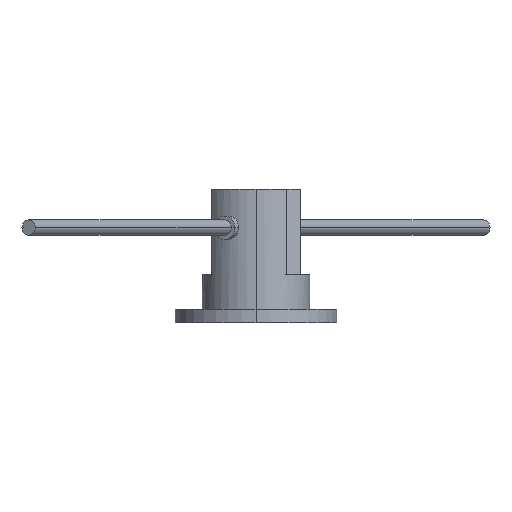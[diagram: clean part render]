
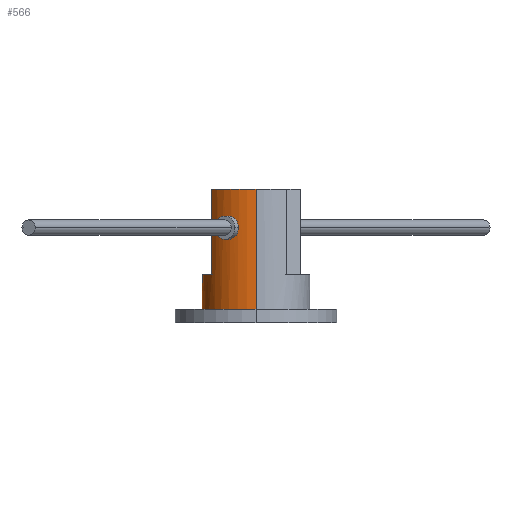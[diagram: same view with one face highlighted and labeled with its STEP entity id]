
A CAD part, front view. The second image highlights one B-rep face of the part: STEP entity #566.
In plain terms, the highlighted cylindrical face has radius 14 mm (diameter 28 mm), a partial arc.
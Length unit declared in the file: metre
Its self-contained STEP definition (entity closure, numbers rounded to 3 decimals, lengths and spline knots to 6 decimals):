
#6 = VERTEX_POINT ( 'NONE', #284 ) ;
#28 = DIRECTION ( 'NONE',  ( 0., 0., -1. ) ) ;
#33 = ORIENTED_EDGE ( 'NONE', *, *, #1291, .F. ) ;
#79 = DIRECTION ( 'NONE',  ( 0., 1., 0. ) ) ;
#84 = CARTESIAN_POINT ( 'NONE',  ( 0., 0., 0.0347 ) ) ;
#99 = VECTOR ( 'NONE', #28, 1. ) ;
#118 = DIRECTION ( 'NONE',  ( 0., 0., -1. ) ) ;
#186 = LINE ( 'NONE', #406, #99 ) ;
#204 = VECTOR ( 'NONE', #118, 1. ) ;
#252 = FACE_OUTER_BOUND ( 'NONE', #891, .T. ) ;
#274 = AXIS2_PLACEMENT_3D ( 'NONE', #833, #591, #1179 ) ;
#284 = CARTESIAN_POINT ( 'NONE',  ( -0.008009, 0.011483, 0.0125 ) ) ;
#296 = DIRECTION ( 'NONE',  ( 0., 1., 0. ) ) ;
#356 = CARTESIAN_POINT ( 'NONE',  ( 0., 0.014, 0.0035 ) ) ;
#372 = CARTESIAN_POINT ( 'NONE',  ( 0., 0., 0.0035 ) ) ;
#390 = DIRECTION ( 'NONE',  ( 0., 0., -1. ) ) ;
#406 = CARTESIAN_POINT ( 'NONE',  ( 0., 0.014, 0.0347 ) ) ;
#498 = EDGE_CURVE ( 'NONE', #6, #1274, #934, .T. ) ;
#502 = VERTEX_POINT ( 'NONE', #356 ) ;
#505 = CIRCLE ( 'NONE', #1504, 0.014 ) ;
#507 = CARTESIAN_POINT ( 'NONE',  ( -0.008009, 0.011483, 0.0191 ) ) ;
#541 = ORIENTED_EDGE ( 'NONE', *, *, #968, .F. ) ;
#566 = ADVANCED_FACE ( 'NONE', ( #252 ), #1480, .T. ) ;
#577 = EDGE_CURVE ( 'NONE', #1274, #798, #1078, .T. ) ;
#588 = AXIS2_PLACEMENT_3D ( 'NONE', #372, #902, #296 ) ;
#591 = DIRECTION ( 'NONE',  ( 0., 0., 1. ) ) ;
#642 = ORIENTED_EDGE ( 'NONE', *, *, #1458, .T. ) ;
#683 = LINE ( 'NONE', #507, #1020 ) ;
#704 = DIRECTION ( 'NONE',  ( 0., 0., 1. ) ) ;
#717 = DIRECTION ( 'NONE',  ( 0., 0., -1. ) ) ;
#728 = ORIENTED_EDGE ( 'NONE', *, *, #1506, .F. ) ;
#762 = VECTOR ( 'NONE', #704, 1. ) ;
#770 = AXIS2_PLACEMENT_3D ( 'NONE', #84, #1263, #1047 ) ;
#790 = EDGE_CURVE ( 'NONE', #1052, #1151, #1113, .T. ) ;
#798 = VERTEX_POINT ( 'NONE', #1285 ) ;
#799 = CIRCLE ( 'NONE', #588, 0.014 ) ;
#813 = AXIS2_PLACEMENT_3D ( 'NONE', #1199, #717, #948 ) ;
#833 = CARTESIAN_POINT ( 'NONE',  ( 0., 0., 0.0125 ) ) ;
#864 = CARTESIAN_POINT ( 'NONE',  ( 0., -0.014, 0.0347 ) ) ;
#891 = EDGE_LOOP ( 'NONE', ( #33, #989, #1371, #1280, #728, #1250, #642, #541 ) ) ;
#902 = DIRECTION ( 'NONE',  ( 0., 0., -1. ) ) ;
#934 = CIRCLE ( 'NONE', #274, 0.014 ) ;
#948 = DIRECTION ( 'NONE',  ( 0., 1., 0. ) ) ;
#968 = EDGE_CURVE ( 'NONE', #1315, #502, #799, .T. ) ;
#989 = ORIENTED_EDGE ( 'NONE', *, *, #1530, .F. ) ;
#1020 = VECTOR ( 'NONE', #390, 1. ) ;
#1028 = CARTESIAN_POINT ( 'NONE',  ( 0., 0.014, 0.0347 ) ) ;
#1044 = CARTESIAN_POINT ( 'NONE',  ( 0., 0., 0.0347 ) ) ;
#1047 = DIRECTION ( 'NONE',  ( 0., 1., 0. ) ) ;
#1052 = VERTEX_POINT ( 'NONE', #1028 ) ;
#1070 = CARTESIAN_POINT ( 'NONE',  ( -0.011483, -0.008009, 0.0125 ) ) ;
#1078 = LINE ( 'NONE', #1410, #762 ) ;
#1113 = CIRCLE ( 'NONE', #770, 0.014 ) ;
#1151 = VERTEX_POINT ( 'NONE', #1372 ) ;
#1177 = CARTESIAN_POINT ( 'NONE',  ( 0., -0.014, 0.0347 ) ) ;
#1179 = DIRECTION ( 'NONE',  ( 0., 1., 0. ) ) ;
#1199 = CARTESIAN_POINT ( 'NONE',  ( 0., 0., 0.0347 ) ) ;
#1210 = LINE ( 'NONE', #1177, #204 ) ;
#1244 = DIRECTION ( 'NONE',  ( 0., 0., 1. ) ) ;
#1250 = ORIENTED_EDGE ( 'NONE', *, *, #790, .F. ) ;
#1263 = DIRECTION ( 'NONE',  ( 0., 0., 1. ) ) ;
#1274 = VERTEX_POINT ( 'NONE', #1070 ) ;
#1280 = ORIENTED_EDGE ( 'NONE', *, *, #498, .F. ) ;
#1285 = CARTESIAN_POINT ( 'NONE',  ( -0.011483, -0.008009, 0.0347 ) ) ;
#1291 = EDGE_CURVE ( 'NONE', #1429, #1315, #1210, .T. ) ;
#1315 = VERTEX_POINT ( 'NONE', #1408 ) ;
#1371 = ORIENTED_EDGE ( 'NONE', *, *, #577, .F. ) ;
#1372 = CARTESIAN_POINT ( 'NONE',  ( -0.008009, 0.011483, 0.0347 ) ) ;
#1408 = CARTESIAN_POINT ( 'NONE',  ( 0., -0.014, 0.0035 ) ) ;
#1410 = CARTESIAN_POINT ( 'NONE',  ( -0.011483, -0.008009, 0.0191 ) ) ;
#1429 = VERTEX_POINT ( 'NONE', #864 ) ;
#1458 = EDGE_CURVE ( 'NONE', #1052, #502, #186, .T. ) ;
#1480 = CYLINDRICAL_SURFACE ( 'NONE', #813, 0.014 ) ;
#1504 = AXIS2_PLACEMENT_3D ( 'NONE', #1044, #1244, #79 ) ;
#1506 = EDGE_CURVE ( 'NONE', #1151, #6, #683, .T. ) ;
#1530 = EDGE_CURVE ( 'NONE', #798, #1429, #505, .T. ) ;
